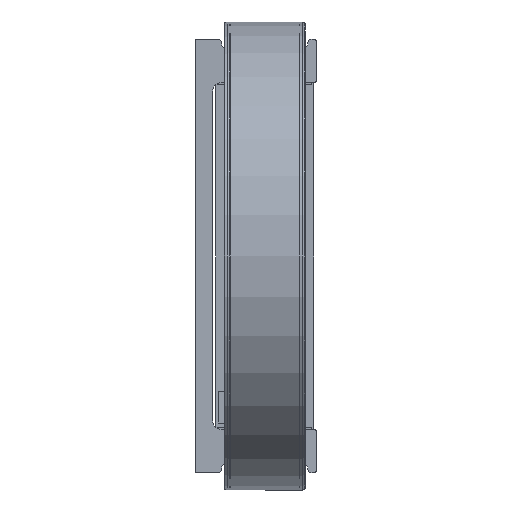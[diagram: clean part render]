
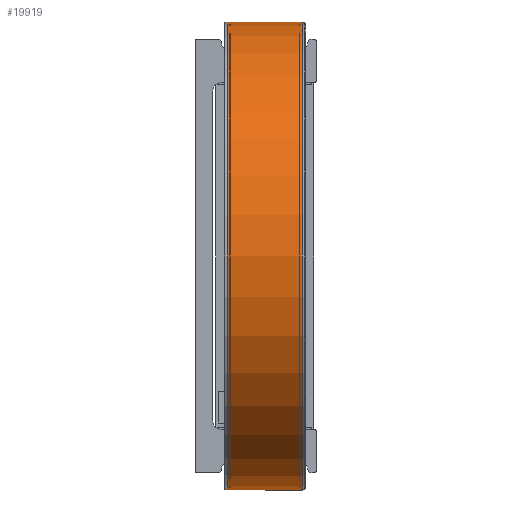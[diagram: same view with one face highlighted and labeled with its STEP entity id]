
A CAD part, front view. The second image highlights one B-rep face of the part: STEP entity #19919.
In plain terms, the highlighted cylindrical face has radius 40.526 mm (diameter 81.052 mm), a partial arc.
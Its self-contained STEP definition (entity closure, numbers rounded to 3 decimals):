
#402 = VERTEX_POINT ( 'NONE', #31343 ) ;
#1072 = DIRECTION ( 'NONE',  ( -1., 0., 0. ) ) ;
#1364 = CARTESIAN_POINT ( 'NONE',  ( 18.5, -40.94, 0. ) ) ;
#2513 = DIRECTION ( 'NONE',  ( 0., 0., -1. ) ) ;
#4888 = ORIENTED_EDGE ( 'NONE', *, *, #38057, .F. ) ;
#5192 = DIRECTION ( 'NONE',  ( 0., 0., -1. ) ) ;
#5567 = DIRECTION ( 'NONE',  ( 0., 0., -1. ) ) ;
#6159 = DIRECTION ( 'NONE',  ( -1., 0., 0. ) ) ;
#6263 = AXIS2_PLACEMENT_3D ( 'NONE', #27842, #45995, #5192 ) ;
#8661 = EDGE_LOOP ( 'NONE', ( #58025, #54673, #44522, #4888 ) ) ;
#14186 = CYLINDRICAL_SURFACE ( 'NONE', #6263, 40.526 ) ;
#16115 = VERTEX_POINT ( 'NONE', #48184 ) ;
#17351 = CIRCLE ( 'NONE', #50586, 40.526 ) ;
#19563 = EDGE_CURVE ( 'NONE', #50817, #49009, #49062, .T. ) ;
#19919 = ADVANCED_FACE ( 'NONE', ( #54919 ), #14186, .T. ) ;
#20238 = VECTOR ( 'NONE', #33069, 1000. ) ;
#20580 = AXIS2_PLACEMENT_3D ( 'NONE', #1364, #1072, #5567 ) ;
#24164 = LINE ( 'NONE', #55688, #20238 ) ;
#24357 = LINE ( 'NONE', #38024, #53807 ) ;
#27842 = CARTESIAN_POINT ( 'NONE',  ( 5., -40.94, 0. ) ) ;
#31343 = CARTESIAN_POINT ( 'NONE',  ( 5.5, -40.94, 40.526 ) ) ;
#33069 = DIRECTION ( 'NONE',  ( -1., 0., 0. ) ) ;
#35584 = EDGE_CURVE ( 'NONE', #16115, #402, #17351, .T. ) ;
#38024 = CARTESIAN_POINT ( 'NONE',  ( 5., -40.94, 40.526 ) ) ;
#38057 = EDGE_CURVE ( 'NONE', #50817, #16115, #24164, .T. ) ;
#41788 = EDGE_CURVE ( 'NONE', #49009, #402, #24357, .T. ) ;
#43302 = DIRECTION ( 'NONE',  ( -1., 0., 0. ) ) ;
#44522 = ORIENTED_EDGE ( 'NONE', *, *, #35584, .F. ) ;
#45995 = DIRECTION ( 'NONE',  ( -1., 0., 0. ) ) ;
#48184 = CARTESIAN_POINT ( 'NONE',  ( 5.5, -40.94, -40.526 ) ) ;
#49009 = VERTEX_POINT ( 'NONE', #50515 ) ;
#49062 = CIRCLE ( 'NONE', #20580, 40.526 ) ;
#50515 = CARTESIAN_POINT ( 'NONE',  ( 18.5, -40.94, 40.526 ) ) ;
#50586 = AXIS2_PLACEMENT_3D ( 'NONE', #52237, #43302, #2513 ) ;
#50817 = VERTEX_POINT ( 'NONE', #54341 ) ;
#52237 = CARTESIAN_POINT ( 'NONE',  ( 5.5, -40.94, 0. ) ) ;
#53807 = VECTOR ( 'NONE', #6159, 1000. ) ;
#54341 = CARTESIAN_POINT ( 'NONE',  ( 18.5, -40.94, -40.526 ) ) ;
#54673 = ORIENTED_EDGE ( 'NONE', *, *, #41788, .T. ) ;
#54919 = FACE_OUTER_BOUND ( 'NONE', #8661, .T. ) ;
#55688 = CARTESIAN_POINT ( 'NONE',  ( 5., -40.94, -40.526 ) ) ;
#58025 = ORIENTED_EDGE ( 'NONE', *, *, #19563, .T. ) ;
